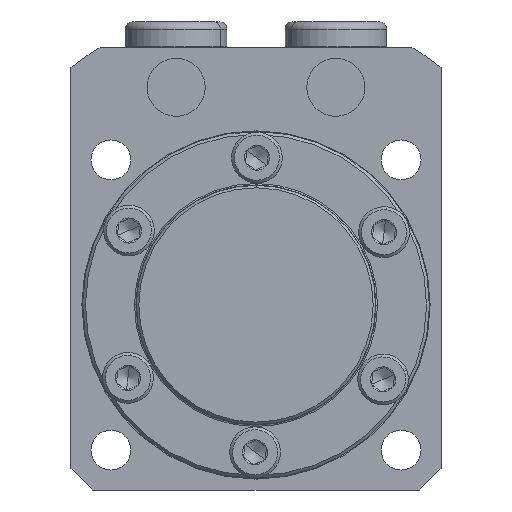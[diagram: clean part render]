
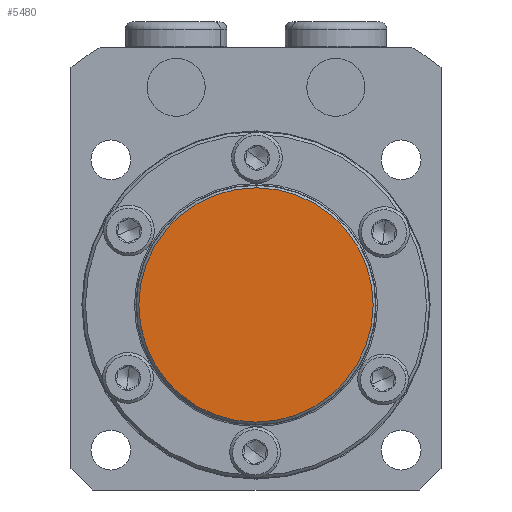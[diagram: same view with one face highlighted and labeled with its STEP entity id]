
A CAD part, front view. The second image highlights one B-rep face of the part: STEP entity #5480.
In plain terms, the highlighted planar face has unit normal (0, -1, 0).
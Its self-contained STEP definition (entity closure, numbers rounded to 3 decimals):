
#886 = EDGE_CURVE ( 'NONE', #4531, #1225, #5267, .T. ) ;
#1225 = VERTEX_POINT ( 'NONE', #3856 ) ;
#1260 = DIRECTION ( 'NONE',  ( 0., -1., 0. ) ) ;
#1280 = EDGE_LOOP ( 'NONE', ( #2282, #3646 ) ) ;
#1407 = EDGE_CURVE ( 'NONE', #1225, #4531, #4929, .T. ) ;
#1506 = CARTESIAN_POINT ( 'NONE',  ( 0., -8.5, 0. ) ) ;
#1945 = DIRECTION ( 'NONE',  ( 0., 0., -1. ) ) ;
#2061 = CARTESIAN_POINT ( 'NONE',  ( 0., -8.5, 0. ) ) ;
#2065 = AXIS2_PLACEMENT_3D ( 'NONE', #1506, #4491, #1945 ) ;
#2167 = CARTESIAN_POINT ( 'NONE',  ( 0., -8.5, -16.15 ) ) ;
#2282 = ORIENTED_EDGE ( 'NONE', *, *, #1407, .T. ) ;
#2488 = DIRECTION ( 'NONE',  ( 0., 0., -1. ) ) ;
#3101 = FACE_OUTER_BOUND ( 'NONE', #1280, .T. ) ;
#3646 = ORIENTED_EDGE ( 'NONE', *, *, #886, .T. ) ;
#3825 = AXIS2_PLACEMENT_3D ( 'NONE', #2061, #5034, #2488 ) ;
#3856 = CARTESIAN_POINT ( 'NONE',  ( 0., -8.5, 16.15 ) ) ;
#4176 = PLANE ( 'NONE',  #3825 ) ;
#4195 = CARTESIAN_POINT ( 'NONE',  ( 0., -8.5, 0. ) ) ;
#4244 = DIRECTION ( 'NONE',  ( 0., 0., -1. ) ) ;
#4491 = DIRECTION ( 'NONE',  ( 0., -1., 0. ) ) ;
#4531 = VERTEX_POINT ( 'NONE', #2167 ) ;
#4929 = CIRCLE ( 'NONE', #5381, 16.15 ) ;
#5034 = DIRECTION ( 'NONE',  ( 0., -1., 0. ) ) ;
#5267 = CIRCLE ( 'NONE', #2065, 16.15 ) ;
#5381 = AXIS2_PLACEMENT_3D ( 'NONE', #4195, #1260, #4244 ) ;
#5480 = ADVANCED_FACE ( 'NONE', ( #3101 ), #4176, .T. ) ;
